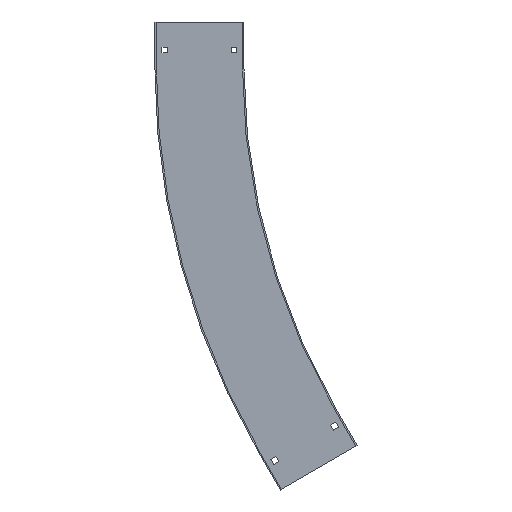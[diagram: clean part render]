
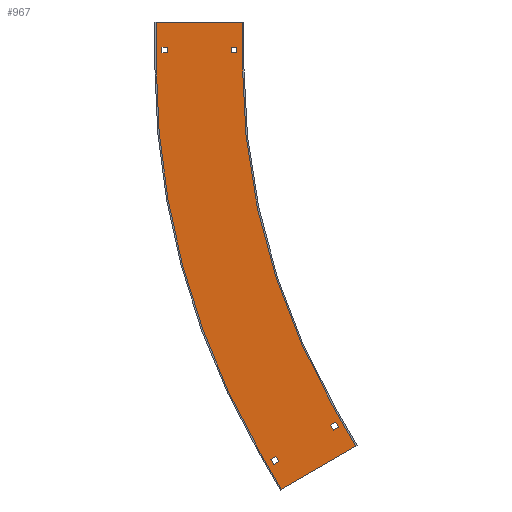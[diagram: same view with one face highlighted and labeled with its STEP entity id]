
A CAD part, left-side view. The second image highlights one B-rep face of the part: STEP entity #967.
In plain terms, the highlighted planar face has unit normal (-1, 0, 0) as drawn and (1, 0, 0) by its records, which use the part's own axes.
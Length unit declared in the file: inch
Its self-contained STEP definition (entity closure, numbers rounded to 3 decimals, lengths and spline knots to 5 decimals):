
#9=DIRECTION('',(0.,1.,0.));
#10=VECTOR('',#9,6.02);
#11=CARTESIAN_POINT('',(0.1,0.1,0.));
#12=LINE('',#11,#10);
#194=DIRECTION('',(0.,0.,1.));
#195=VECTOR('',#194,3.);
#196=CARTESIAN_POINT('',(0.1,6.12,0.));
#197=LINE('',#196,#195);
#198=DIRECTION('',(0.,0.,1.));
#199=VECTOR('',#198,3.);
#200=CARTESIAN_POINT('',(0.1,0.1,0.));
#201=LINE('',#200,#199);
#202=CARTESIAN_POINT('',(0.1,-48.,3.));
#203=DIRECTION('',(1.,0.,0.));
#204=DIRECTION('',(0.,1.,0.));
#205=AXIS2_PLACEMENT_3D('',#202,#203,#204);
#207=DIRECTION('',(0.,-0.5,0.866));
#208=VECTOR('',#207,3.);
#209=CARTESIAN_POINT('',(0.1,-6.34418,27.05));
#210=LINE('',#209,#208);
#211=DIRECTION('',(0.,1.,0.));
#212=VECTOR('',#211,0.41);
#213=CARTESIAN_POINT('',(0.1,0.477,1.755));
#214=LINE('',#213,#212);
#215=DIRECTION('',(0.,0.,1.));
#216=VECTOR('',#215,0.41);
#217=CARTESIAN_POINT('',(0.1,0.887,1.755));
#218=LINE('',#217,#216);
#219=DIRECTION('',(0.,-1.,0.));
#220=VECTOR('',#219,0.41);
#221=CARTESIAN_POINT('',(0.1,0.887,2.165));
#222=LINE('',#221,#220);
#223=DIRECTION('',(0.,0.,-1.));
#224=VECTOR('',#223,0.41);
#225=CARTESIAN_POINT('',(0.1,0.477,2.165));
#226=LINE('',#225,#224);
#227=DIRECTION('',(0.,1.,0.));
#228=VECTOR('',#227,0.41);
#229=CARTESIAN_POINT('',(0.1,5.312,1.755));
#230=LINE('',#229,#228);
#231=DIRECTION('',(0.,0.,1.));
#232=VECTOR('',#231,0.41);
#233=CARTESIAN_POINT('',(0.1,5.722,1.755));
#234=LINE('',#233,#232);
#235=DIRECTION('',(0.,-1.,0.));
#236=VECTOR('',#235,0.41);
#237=CARTESIAN_POINT('',(0.1,5.722,2.165));
#238=LINE('',#237,#236);
#239=DIRECTION('',(0.,0.,-1.));
#240=VECTOR('',#239,0.41);
#241=CARTESIAN_POINT('',(0.1,5.312,2.165));
#242=LINE('',#241,#240);
#243=DIRECTION('',(0.,0.5,-0.866));
#244=VECTOR('',#243,0.41);
#245=CARTESIAN_POINT('',(0.1,-6.64019,28.3167));
#246=LINE('',#245,#244);
#247=DIRECTION('',(0.,0.866,0.5));
#248=VECTOR('',#247,0.41);
#249=CARTESIAN_POINT('',(0.1,-6.43519,27.96163));
#250=LINE('',#249,#248);
#251=DIRECTION('',(0.,-0.5,0.866));
#252=VECTOR('',#251,0.41);
#253=CARTESIAN_POINT('',(0.1,-6.08012,28.16663));
#254=LINE('',#253,#252);
#255=DIRECTION('',(0.,-0.866,-0.5));
#256=VECTOR('',#255,0.41);
#257=CARTESIAN_POINT('',(0.1,-6.28512,28.5217));
#258=LINE('',#257,#256);
#259=DIRECTION('',(0.,0.5,-0.866));
#260=VECTOR('',#259,0.41);
#261=CARTESIAN_POINT('',(0.1,-2.45295,30.7342));
#262=LINE('',#261,#260);
#263=DIRECTION('',(0.,0.866,0.5));
#264=VECTOR('',#263,0.41);
#265=CARTESIAN_POINT('',(0.1,-2.24795,30.37913));
#266=LINE('',#265,#264);
#267=DIRECTION('',(0.,-0.5,0.866));
#268=VECTOR('',#267,0.41);
#269=CARTESIAN_POINT('',(0.1,-1.89288,30.58413));
#270=LINE('',#269,#268);
#271=DIRECTION('',(0.,-0.866,-0.5));
#272=VECTOR('',#271,0.41);
#273=CARTESIAN_POINT('',(0.1,-2.09788,30.9392));
#274=LINE('',#273,#272);
#336=DIRECTION('',(0.,0.866,0.5));
#337=VECTOR('',#336,6.02);
#338=CARTESIAN_POINT('',(0.1,-7.84418,29.64808));
#339=LINE('',#338,#337);
#416=DIRECTION('',(0.,-0.5,0.866));
#417=VECTOR('',#416,3.);
#418=CARTESIAN_POINT('',(0.1,-1.13071,30.06));
#419=LINE('',#418,#417);
#424=CARTESIAN_POINT('',(0.1,-48.,3.));
#425=DIRECTION('',(1.,0.,0.));
#426=DIRECTION('',(0.,1.,0.));
#427=AXIS2_PLACEMENT_3D('',#424,#425,#426);
#497=CARTESIAN_POINT('',(0.1,0.1,0.));
#498=VERTEX_POINT('',#497);
#499=CARTESIAN_POINT('',(0.1,6.12,0.));
#500=VERTEX_POINT('',#499);
#518=CARTESIAN_POINT('',(0.1,0.1,3.));
#520=VERTEX_POINT('',#518);
#521=CARTESIAN_POINT('',(0.1,6.12,3.));
#523=VERTEX_POINT('',#521);
#542=CARTESIAN_POINT('',(0.1,-6.34418,27.05));
#544=VERTEX_POINT('',#542);
#545=CARTESIAN_POINT('',(0.1,-1.13071,30.06));
#547=VERTEX_POINT('',#545);
#569=CARTESIAN_POINT('',(0.1,-7.84418,29.64808));
#570=VERTEX_POINT('',#569);
#571=CARTESIAN_POINT('',(0.1,-2.63071,32.65808));
#572=VERTEX_POINT('',#571);
#589=CARTESIAN_POINT('',(0.1,0.477,1.755));
#590=CARTESIAN_POINT('',(0.1,0.887,1.755));
#591=VERTEX_POINT('',#589);
#592=VERTEX_POINT('',#590);
#593=CARTESIAN_POINT('',(0.1,0.887,2.165));
#594=VERTEX_POINT('',#593);
#595=CARTESIAN_POINT('',(0.1,0.477,2.165));
#596=VERTEX_POINT('',#595);
#597=CARTESIAN_POINT('',(0.1,5.312,1.755));
#598=CARTESIAN_POINT('',(0.1,5.722,1.755));
#599=VERTEX_POINT('',#597);
#600=VERTEX_POINT('',#598);
#601=CARTESIAN_POINT('',(0.1,5.722,2.165));
#602=VERTEX_POINT('',#601);
#603=CARTESIAN_POINT('',(0.1,5.312,2.165));
#604=VERTEX_POINT('',#603);
#621=CARTESIAN_POINT('',(0.1,-6.64019,28.3167));
#622=CARTESIAN_POINT('',(0.1,-6.43519,27.96163));
#623=VERTEX_POINT('',#621);
#624=VERTEX_POINT('',#622);
#625=CARTESIAN_POINT('',(0.1,-6.08012,28.16663));
#626=VERTEX_POINT('',#625);
#627=CARTESIAN_POINT('',(0.1,-6.28512,28.5217));
#628=VERTEX_POINT('',#627);
#629=CARTESIAN_POINT('',(0.1,-2.45295,30.7342));
#630=CARTESIAN_POINT('',(0.1,-2.24795,30.37913));
#631=VERTEX_POINT('',#629);
#632=VERTEX_POINT('',#630);
#633=CARTESIAN_POINT('',(0.1,-1.89288,30.58413));
#634=VERTEX_POINT('',#633);
#635=CARTESIAN_POINT('',(0.1,-2.09788,30.9392));
#636=VERTEX_POINT('',#635);
#906=CARTESIAN_POINT('',(0.1,0.1,0.));
#907=DIRECTION('',(1.,0.,0.));
#908=DIRECTION('',(0.,1.,0.));
#909=AXIS2_PLACEMENT_3D('',#906,#907,#908);
#910=PLANE('',#909);
#911=ORIENTED_EDGE('',*,*,#662,.F.);
#913=ORIENTED_EDGE('',*,*,#912,.T.);
#915=ORIENTED_EDGE('',*,*,#914,.T.);
#917=ORIENTED_EDGE('',*,*,#916,.T.);
#919=ORIENTED_EDGE('',*,*,#918,.T.);
#921=ORIENTED_EDGE('',*,*,#920,.F.);
#923=ORIENTED_EDGE('',*,*,#922,.F.);
#924=ORIENTED_EDGE('',*,*,#898,.F.);
#925=EDGE_LOOP('',(#911,#913,#915,#917,#919,#921,#923,#924));
#926=FACE_OUTER_BOUND('',#925,.F.);
#928=ORIENTED_EDGE('',*,*,#927,.T.);
#930=ORIENTED_EDGE('',*,*,#929,.T.);
#932=ORIENTED_EDGE('',*,*,#931,.T.);
#934=ORIENTED_EDGE('',*,*,#933,.T.);
#935=EDGE_LOOP('',(#928,#930,#932,#934));
#936=FACE_BOUND('',#935,.F.);
#938=ORIENTED_EDGE('',*,*,#937,.T.);
#940=ORIENTED_EDGE('',*,*,#939,.T.);
#942=ORIENTED_EDGE('',*,*,#941,.T.);
#944=ORIENTED_EDGE('',*,*,#943,.T.);
#945=EDGE_LOOP('',(#938,#940,#942,#944));
#946=FACE_BOUND('',#945,.F.);
#948=ORIENTED_EDGE('',*,*,#947,.T.);
#950=ORIENTED_EDGE('',*,*,#949,.T.);
#952=ORIENTED_EDGE('',*,*,#951,.T.);
#954=ORIENTED_EDGE('',*,*,#953,.T.);
#955=EDGE_LOOP('',(#948,#950,#952,#954));
#956=FACE_BOUND('',#955,.F.);
#958=ORIENTED_EDGE('',*,*,#957,.T.);
#960=ORIENTED_EDGE('',*,*,#959,.T.);
#962=ORIENTED_EDGE('',*,*,#961,.T.);
#964=ORIENTED_EDGE('',*,*,#963,.T.);
#965=EDGE_LOOP('',(#958,#960,#962,#964));
#966=FACE_BOUND('',#965,.F.);
#967=ADVANCED_FACE('',(#926,#936,#946,#956,#966),#910,.T.);
#206=CIRCLE('',#205,48.1);
#428=CIRCLE('',#427,54.12);
#662=EDGE_CURVE('',#498,#500,#12,.T.);
#898=EDGE_CURVE('',#500,#523,#197,.T.);
#912=EDGE_CURVE('',#498,#520,#201,.T.);
#914=EDGE_CURVE('',#520,#544,#206,.T.);
#916=EDGE_CURVE('',#544,#570,#210,.T.);
#918=EDGE_CURVE('',#570,#572,#339,.T.);
#920=EDGE_CURVE('',#547,#572,#419,.T.);
#922=EDGE_CURVE('',#523,#547,#428,.T.);
#927=EDGE_CURVE('',#591,#592,#214,.T.);
#929=EDGE_CURVE('',#592,#594,#218,.T.);
#931=EDGE_CURVE('',#594,#596,#222,.T.);
#933=EDGE_CURVE('',#596,#591,#226,.T.);
#937=EDGE_CURVE('',#599,#600,#230,.T.);
#939=EDGE_CURVE('',#600,#602,#234,.T.);
#941=EDGE_CURVE('',#602,#604,#238,.T.);
#943=EDGE_CURVE('',#604,#599,#242,.T.);
#947=EDGE_CURVE('',#623,#624,#246,.T.);
#949=EDGE_CURVE('',#624,#626,#250,.T.);
#951=EDGE_CURVE('',#626,#628,#254,.T.);
#953=EDGE_CURVE('',#628,#623,#258,.T.);
#957=EDGE_CURVE('',#631,#632,#262,.T.);
#959=EDGE_CURVE('',#632,#634,#266,.T.);
#961=EDGE_CURVE('',#634,#636,#270,.T.);
#963=EDGE_CURVE('',#636,#631,#274,.T.);
